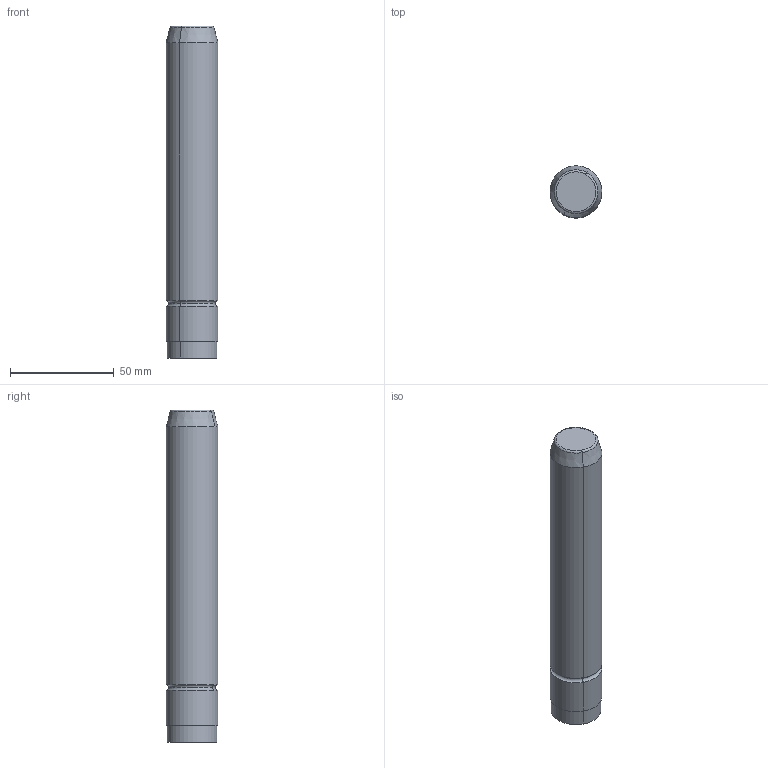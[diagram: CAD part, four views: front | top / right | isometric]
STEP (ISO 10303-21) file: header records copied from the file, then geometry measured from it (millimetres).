
FILE_DESCRIPTION(('CATIA V5 STEP Exchange'),'2;1');
FILE_NAME('C:\Users\Utente\Desktop\IO LAVORO\3D X SITO CF\X SITO\M104\M104-25x160.stp','2020-12-26T21:38:09+00:00',('none'),('none'),'CATIA Version 5 Release 20 GA (IN-10)','CATIA V5 STEP AP203','none');
FILE_SCHEMA(('CONFIG_CONTROL_DESIGN'));
Length unit declared in the file: millimetre
Products named in the file (1): M104-25x160
Bounding box: 24.99 x 24.99 x 160 mm (x, y, z)
Volume: 77375.2 mm3; surface area: 13418.6 mm2
Topology: 1 solids, 1 shells, 17 faces, 32 edges, 18 vertices
Faces by surface type: cylinder 6, torus 6, plane 3, cone 2
Entity records: 438 total; most frequent: CARTESIAN_POINT 66, ORIENTED_EDGE 64, DIRECTION 62, AXIS2_PLACEMENT_3D 40, EDGE_CURVE 32, CIRCLE 24, EDGE_LOOP 18, VERTEX_POINT 18
